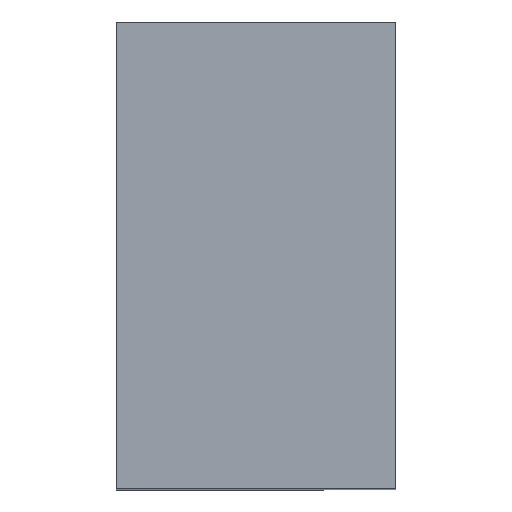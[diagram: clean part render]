
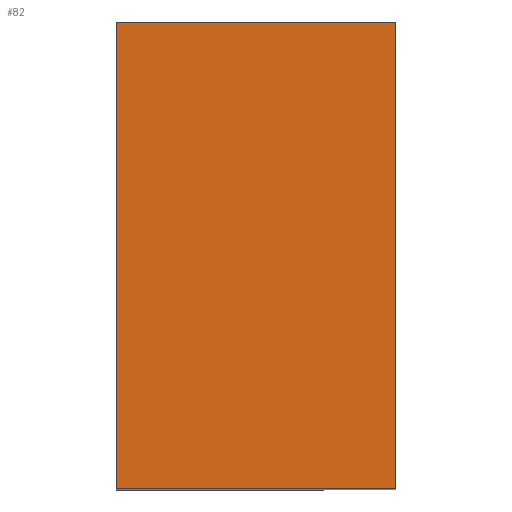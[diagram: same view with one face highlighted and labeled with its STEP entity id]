
A CAD part, top view. The second image highlights one B-rep face of the part: STEP entity #82.
In plain terms, the highlighted planar face has unit normal (0, 0, 1).
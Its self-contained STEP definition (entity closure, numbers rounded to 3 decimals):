
#82 = ADVANCED_FACE( '', ( #142 ), #143, .F. );
#142 = FACE_OUTER_BOUND( '', #267, .T. );
#143 = PLANE( '', #268 );
#267 = EDGE_LOOP( '', ( #423, #424, #425, #426 ) );
#268 = AXIS2_PLACEMENT_3D( '', #427, #428, #429 );
#423 = ORIENTED_EDGE( '', *, *, #657, .T. );
#424 = ORIENTED_EDGE( '', *, *, #667, .F. );
#425 = ORIENTED_EDGE( '', *, *, #672, .F. );
#426 = ORIENTED_EDGE( '', *, *, #673, .T. );
#427 = CARTESIAN_POINT( '', ( -12., -10., 10. ) );
#428 = DIRECTION( '', ( 0., 0., -1. ) );
#429 = DIRECTION( '', ( 1., 0., 0. ) );
#657 = EDGE_CURVE( '', #739, #737, #740, .T. );
#667 = EDGE_CURVE( '', #756, #737, #758, .T. );
#672 = EDGE_CURVE( '', #767, #756, #768, .T. );
#673 = EDGE_CURVE( '', #767, #739, #769, .T. );
#737 = VERTEX_POINT( '', #933 );
#739 = VERTEX_POINT( '', #936 );
#740 = LINE( '', #937, #938 );
#756 = VERTEX_POINT( '', #961 );
#758 = LINE( '', #964, #965 );
#767 = VERTEX_POINT( '', #1106 );
#768 = LINE( '', #1107, #1108 );
#769 = LINE( '', #1109, #1110 );
#933 = CARTESIAN_POINT( '', ( 0., 10., 10. ) );
#936 = CARTESIAN_POINT( '', ( 0., -10., 10. ) );
#937 = CARTESIAN_POINT( '', ( 0., -10., 10. ) );
#938 = VECTOR( '', #1284, 1000. );
#961 = CARTESIAN_POINT( '', ( -12., 10., 10. ) );
#964 = CARTESIAN_POINT( '', ( -12., 10., 10. ) );
#965 = VECTOR( '', #1296, 1000. );
#1106 = CARTESIAN_POINT( '', ( -12., -10., 10. ) );
#1107 = CARTESIAN_POINT( '', ( -12., -10., 10. ) );
#1108 = VECTOR( '', #1297, 1000. );
#1109 = CARTESIAN_POINT( '', ( -12., -10., 10. ) );
#1110 = VECTOR( '', #1298, 1000. );
#1284 = DIRECTION( '', ( 0., 1., 0. ) );
#1296 = DIRECTION( '', ( 1., 0., 0. ) );
#1297 = DIRECTION( '', ( 0., 1., 0. ) );
#1298 = DIRECTION( '', ( 1., 0., 0. ) );
